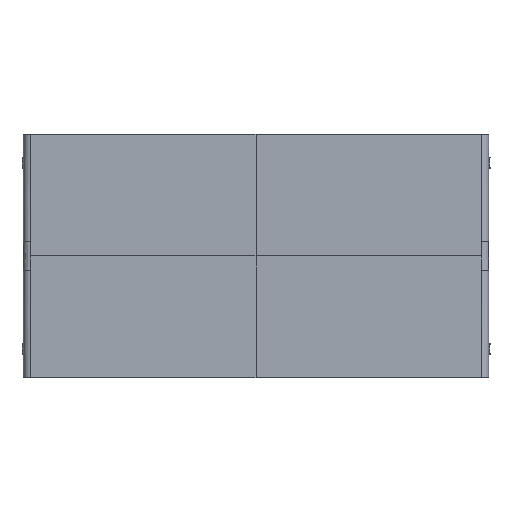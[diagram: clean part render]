
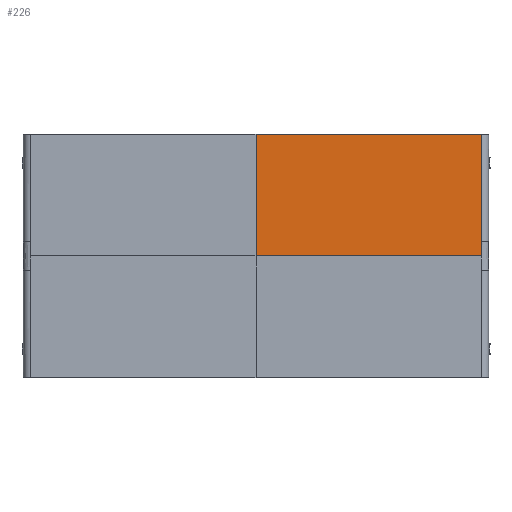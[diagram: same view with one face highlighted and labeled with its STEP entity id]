
A CAD part, top view. The second image highlights one B-rep face of the part: STEP entity #226.
In plain terms, the highlighted planar face has unit normal (0, 0, 1).
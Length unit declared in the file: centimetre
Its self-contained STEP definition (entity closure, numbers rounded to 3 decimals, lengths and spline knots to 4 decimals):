
#226=ADVANCED_FACE($,(#440),#2786,.T.);
#440=FACE_OUTER_BOUND($,#658,.T.);
#658=EDGE_LOOP($,(#1576,#1577,#1578,#1579,#1580));
#1576=ORIENTED_EDGE($,*,*,#2183,.T.);
#1577=ORIENTED_EDGE($,*,*,#2192,.F.);
#1578=ORIENTED_EDGE($,*,*,#2211,.F.);
#1579=ORIENTED_EDGE($,*,*,#2173,.F.);
#1580=ORIENTED_EDGE($,*,*,#2184,.F.);
#2173=EDGE_CURVE($,#2543,#2538,#3113,.T.);
#2183=EDGE_CURVE($,#2552,#2553,#3123,.T.);
#2184=EDGE_CURVE($,#2552,#2543,#3124,.T.);
#2192=EDGE_CURVE($,#2561,#2553,#3128,.T.);
#2211=EDGE_CURVE($,#2538,#2561,#3147,.T.);
#2538=VERTEX_POINT($,#6362);
#2543=VERTEX_POINT($,#6367);
#2552=VERTEX_POINT($,#6376);
#2553=VERTEX_POINT($,#6377);
#2561=VERTEX_POINT($,#6385);
#2786=PLANE($,#3522);
#3113=B_SPLINE_CURVE_WITH_KNOTS($,1,(#6076,#6077),.UNSPECIFIED.,.F.,.F.,
(2,2),(575.,1160.),.UNSPECIFIED.);
#3123=B_SPLINE_CURVE_WITH_KNOTS($,1,(#6100,#6101),.UNSPECIFIED.,.F.,.F.,
(2,2),(-63.,0.),.UNSPECIFIED.);
#3124=B_SPLINE_CURVE_WITH_KNOTS($,1,(#6102,#6103),.UNSPECIFIED.,.F.,.F.,
(2,2),(26.,60.),.UNSPECIFIED.);
#3128=B_SPLINE_CURVE_WITH_KNOTS($,1,(#6122,#6123),.UNSPECIFIED.,.F.,.F.,
(2,2),(-8.,-4.),.UNSPECIFIED.);
#3147=B_SPLINE_CURVE_WITH_KNOTS($,1,(#6160,#6161),.UNSPECIFIED.,.F.,.F.,
(2,2),(0.,300.),.UNSPECIFIED.);
#3522=AXIS2_PLACEMENT_3D($,#6266,#3651,$);
#3651=DIRECTION($,(0.,0.,1.));
#6076=CARTESIAN_POINT($,(62.2391,67.1652,31.4));
#6077=CARTESIAN_POINT($,(125.2391,67.1652,31.4));
#6100=CARTESIAN_POINT($,(62.2391,33.1652,31.4));
#6101=CARTESIAN_POINT($,(125.2391,33.1652,31.4));
#6102=CARTESIAN_POINT($,(62.2391,33.1652,31.4));
#6103=CARTESIAN_POINT($,(62.2391,67.1652,31.4));
#6122=CARTESIAN_POINT($,(125.2391,37.1652,31.4));
#6123=CARTESIAN_POINT($,(125.2391,33.1652,31.4));
#6160=CARTESIAN_POINT($,(125.2391,67.1652,31.4));
#6161=CARTESIAN_POINT($,(125.2391,37.1652,31.4));
#6266=CARTESIAN_POINT($,(62.2391,67.1652,31.4));
#6362=CARTESIAN_POINT($,(125.2391,67.1652,31.4));
#6367=CARTESIAN_POINT($,(62.2391,67.1652,31.4));
#6376=CARTESIAN_POINT($,(62.2391,33.1652,31.4));
#6377=CARTESIAN_POINT($,(125.2391,33.1652,31.4));
#6385=CARTESIAN_POINT($,(125.2391,37.1652,31.4));
